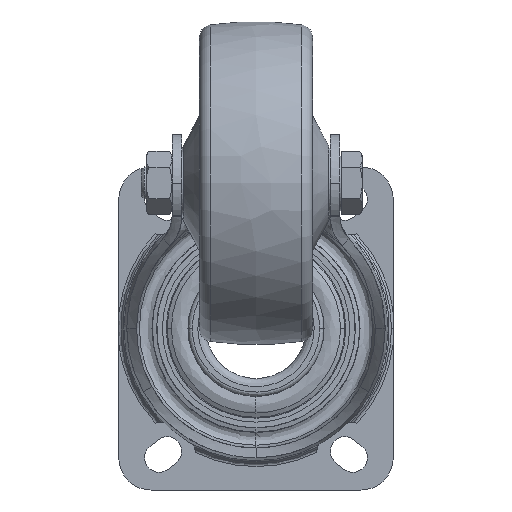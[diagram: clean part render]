
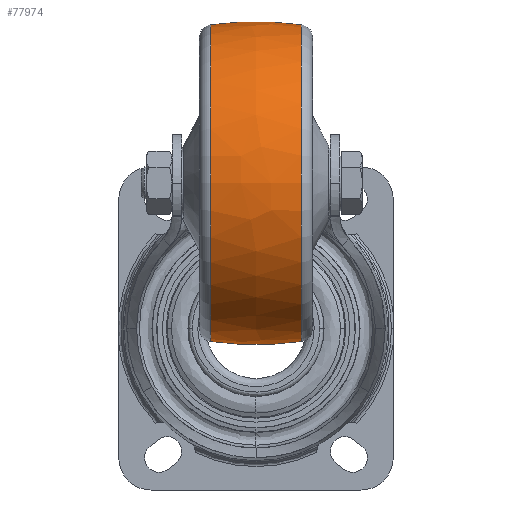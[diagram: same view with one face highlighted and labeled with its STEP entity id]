
A CAD part, front view. The second image highlights one B-rep face of the part: STEP entity #77974.
In plain terms, the highlighted free-form (B-spline) face has degree [3, 3] with [7, 4] control points.
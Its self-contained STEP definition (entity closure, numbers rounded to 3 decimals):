
#1139 = CARTESIAN_POINT ( 'NONE',  ( 14.063, 49.006, 0. ) ) ;
#3119 = CARTESIAN_POINT ( 'NONE',  ( -14.063, 49.006, 0. ) ) ;
#4055 = DIRECTION ( 'NONE',  ( -1., 0., 0. ) ) ;
#5170 = CARTESIAN_POINT ( 'NONE',  ( -4.909, 50.261, -3.162 ) ) ;
#5698 = CARTESIAN_POINT ( 'NONE',  ( 4.909, -30.992, 50.361 ) ) ;
#8184 = CIRCLE ( 'NONE', #46905, 100. ) ;
#10326 = CARTESIAN_POINT ( 'NONE',  ( -14.063, 0., 0. ) ) ;
#11054 = EDGE_CURVE ( 'NONE', #35957, #17326, #63625, .T. ) ;
#11186 = CARTESIAN_POINT ( 'NONE',  ( -4.909, -50.261, -3.162 ) ) ;
#11452 = CARTESIAN_POINT ( 'NONE',  ( 4.909, -50.261, -3.162 ) ) ;
#11983 = CARTESIAN_POINT ( 'NONE',  ( -4.909, -30.992, 50.361 ) ) ;
#12906 = CARTESIAN_POINT ( 'NONE',  ( 14.063, -49.006, 0. ) ) ;
#13945 = DIRECTION ( 'NONE',  ( -1., 0., 0. ) ) ;
#14008 = CIRCLE ( 'NONE', #74806, 49.006 ) ;
#14471 = AXIS2_PLACEMENT_3D ( 'NONE', #20628, #63905, #46058 ) ;
#14745 = CARTESIAN_POINT ( 'NONE',  ( 14.063, 0., 0. ) ) ;
#16578 =( BOUNDED_SURFACE ( )  B_SPLINE_SURFACE ( 3, 3, ( 
 ( #29808, #11452, #11186, #79914 ),
 ( #36348, #67219, #60665, #73181 ),
 ( #72918, #5698, #11983, #17653 ),
 ( #42871, #60938, #49031, #55226 ),
 ( #54169, #23863, #18188, #54959 ),
 ( #17914, #61204, #61485, #79658 ),
 ( #30603, #42611, #5170, #30059 ) ),
 .UNSPECIFIED., .F., .F., .F. ) 
 B_SPLINE_SURFACE_WITH_KNOTS ( ( 4, 3, 4 ),
 ( 4, 4 ),
 ( 0., 1., 2. ),
 ( 0., 1. ),
 .UNSPECIFIED. ) 
 GEOMETRIC_REPRESENTATION_ITEM ( )  RATIONAL_B_SPLINE_SURFACE ( (
 ( 1.194, 1.185, 1.185, 1.194),
 ( 0.943, 0.936, 0.936, 0.943),
 ( 0.943, 0.936, 0.936, 0.943),
 ( 1.194, 1.185, 1.185, 1.194),
 ( 0.943, 0.936, 0.936, 0.943),
 ( 0.943, 0.936, 0.936, 0.943),
 ( 1.194, 1.185, 1.185, 1.194) ) ) 
 REPRESENTATION_ITEM ( '' )  SURFACE ( )  );
#17326 = VERTEX_POINT ( 'NONE', #3119 ) ;
#17653 = CARTESIAN_POINT ( 'NONE',  ( -14.621, -30.109, 48.925 ) ) ;
#17914 = CARTESIAN_POINT ( 'NONE',  ( 14.621, 50.719, 26.977 ) ) ;
#18188 = CARTESIAN_POINT ( 'NONE',  ( -4.909, 30.992, 50.361 ) ) ;
#20628 = CARTESIAN_POINT ( 'NONE',  ( 0., -50., 0. ) ) ;
#22420 = EDGE_CURVE ( 'NONE', #47556, #24629, #14008, .T. ) ;
#23863 = CARTESIAN_POINT ( 'NONE',  ( 4.909, 30.992, 50.361 ) ) ;
#24629 = VERTEX_POINT ( 'NONE', #1139 ) ;
#24832 = ORIENTED_EDGE ( 'NONE', *, *, #11054, .F. ) ;
#28168 = EDGE_LOOP ( 'NONE', ( #57825, #58269, #24832, #28779 ) ) ;
#28779 = ORIENTED_EDGE ( 'NONE', *, *, #56847, .F. ) ;
#29808 = CARTESIAN_POINT ( 'NONE',  ( 14.621, -48.829, -3.072 ) ) ;
#30059 = CARTESIAN_POINT ( 'NONE',  ( -14.621, 48.829, -3.072 ) ) ;
#30603 = CARTESIAN_POINT ( 'NONE',  ( 14.621, 48.829, -3.072 ) ) ;
#32982 = CARTESIAN_POINT ( 'NONE',  ( 0., 50., 0. ) ) ;
#34022 = DIRECTION ( 'NONE',  ( 0.141, -0.99, 0. ) ) ;
#35957 = VERTEX_POINT ( 'NONE', #66308 ) ;
#36348 = CARTESIAN_POINT ( 'NONE',  ( 14.621, -50.719, 26.977 ) ) ;
#38329 = DIRECTION ( 'NONE',  ( 0., -1., 0. ) ) ;
#42072 = CIRCLE ( 'NONE', #14471, 100. ) ;
#42611 = CARTESIAN_POINT ( 'NONE',  ( 4.909, 50.261, -3.162 ) ) ;
#42871 = CARTESIAN_POINT ( 'NONE',  ( 14.621, 0., 48.925 ) ) ;
#46058 = DIRECTION ( 'NONE',  ( 0.141, 0.99, 0. ) ) ;
#46905 = AXIS2_PLACEMENT_3D ( 'NONE', #32982, #51637, #34022 ) ;
#47556 = VERTEX_POINT ( 'NONE', #12906 ) ;
#49031 = CARTESIAN_POINT ( 'NONE',  ( -4.909, 0., 50.361 ) ) ;
#51637 = DIRECTION ( 'NONE',  ( 0., 0., -1. ) ) ;
#54169 = CARTESIAN_POINT ( 'NONE',  ( 14.621, 30.109, 48.925 ) ) ;
#54394 = DIRECTION ( 'NONE',  ( 0., -1., 0. ) ) ;
#54959 = CARTESIAN_POINT ( 'NONE',  ( -14.621, 30.109, 48.925 ) ) ;
#55226 = CARTESIAN_POINT ( 'NONE',  ( -14.621, 0., 48.925 ) ) ;
#56847 = EDGE_CURVE ( 'NONE', #47556, #35957, #8184, .T. ) ;
#57825 = ORIENTED_EDGE ( 'NONE', *, *, #22420, .T. ) ;
#58269 = ORIENTED_EDGE ( 'NONE', *, *, #66054, .T. ) ;
#60665 = CARTESIAN_POINT ( 'NONE',  ( -4.909, -52.207, 27.769 ) ) ;
#60938 = CARTESIAN_POINT ( 'NONE',  ( 4.909, 0., 50.361 ) ) ;
#61204 = CARTESIAN_POINT ( 'NONE',  ( 4.909, 52.207, 27.769 ) ) ;
#61485 = CARTESIAN_POINT ( 'NONE',  ( -4.909, 52.207, 27.769 ) ) ;
#63625 = CIRCLE ( 'NONE', #75404, 49.006 ) ;
#63905 = DIRECTION ( 'NONE',  ( 0., 0., 1. ) ) ;
#66054 = EDGE_CURVE ( 'NONE', #24629, #17326, #42072, .T. ) ;
#66308 = CARTESIAN_POINT ( 'NONE',  ( -14.063, -49.006, 0. ) ) ;
#67219 = CARTESIAN_POINT ( 'NONE',  ( 4.909, -52.207, 27.769 ) ) ;
#72596 = FACE_OUTER_BOUND ( 'NONE', #28168, .T. ) ;
#72918 = CARTESIAN_POINT ( 'NONE',  ( 14.621, -30.109, 48.925 ) ) ;
#73181 = CARTESIAN_POINT ( 'NONE',  ( -14.621, -50.719, 26.977 ) ) ;
#74806 = AXIS2_PLACEMENT_3D ( 'NONE', #14745, #13945, #38329 ) ;
#75404 = AXIS2_PLACEMENT_3D ( 'NONE', #10326, #4055, #54394 ) ;
#77974 = ADVANCED_FACE ( 'NONE', ( #72596 ), #16578, .T. ) ;
#79658 = CARTESIAN_POINT ( 'NONE',  ( -14.621, 50.719, 26.977 ) ) ;
#79914 = CARTESIAN_POINT ( 'NONE',  ( -14.621, -48.829, -3.072 ) ) ;
